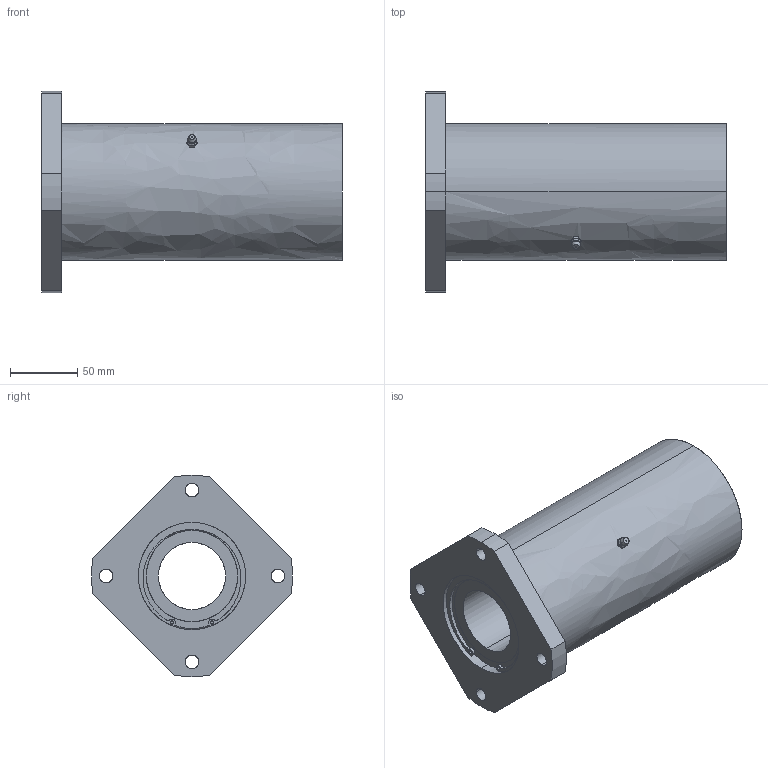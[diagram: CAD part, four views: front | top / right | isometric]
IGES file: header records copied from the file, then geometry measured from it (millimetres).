
Global section: file name: No Iges File Name specified; native system: AutoDesk Inventor R10; preprocessor: AutoDesk Inventor Iges Exporter R10; author: No Author specified; organization: No Organization specified; date: 20101214.140347; units: millimetre
Bounding box: 224 x 149.7 x 150 mm (x, y, z)
Surface area: 157489.2 mm2 (no closed solid volume)
Topology: 0 solids, 0 shells, 145 faces, 1002 edges, 1000 vertices
Faces by surface type: bspline 145
